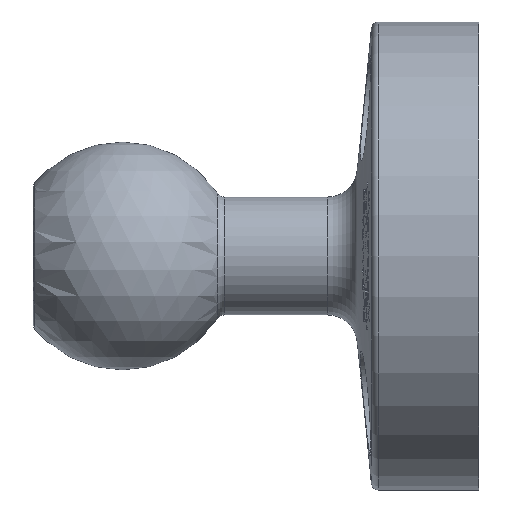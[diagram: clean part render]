
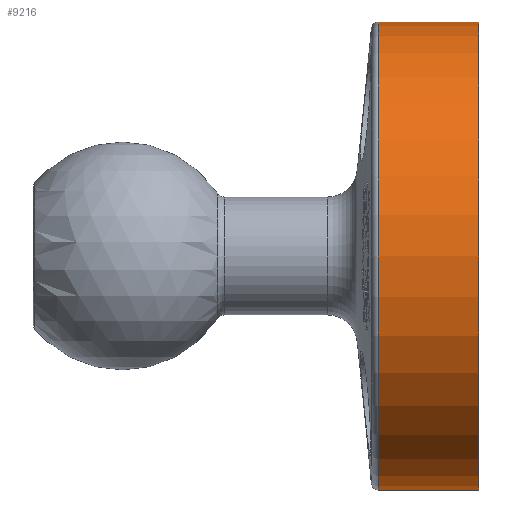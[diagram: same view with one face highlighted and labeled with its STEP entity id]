
A CAD part, front view. The second image highlights one B-rep face of the part: STEP entity #9216.
In plain terms, the highlighted cylindrical face has radius 25.019 mm (diameter 50.038 mm), a full revolution.
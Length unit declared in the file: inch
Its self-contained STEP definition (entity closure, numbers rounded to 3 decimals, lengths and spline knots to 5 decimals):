
#26=CYLINDRICAL_SURFACE('',#9716,0.985);
#99=FACE_BOUND('',#1781,.T.);
#231=CIRCLE('',#9715,0.985);
#232=CIRCLE('',#9717,0.985);
#1194=FACE_OUTER_BOUND('',#1780,.T.);
#1780=EDGE_LOOP('',(#8607));
#1781=EDGE_LOOP('',(#8608));
#4552=VERTEX_POINT('',#19945);
#4553=VERTEX_POINT('',#19948);
#5905=EDGE_CURVE('',#4552,#4552,#231,.T.);
#5906=EDGE_CURVE('',#4553,#4553,#232,.T.);
#8607=ORIENTED_EDGE('',*,*,#5906,.F.);
#8608=ORIENTED_EDGE('',*,*,#5905,.T.);
#9216=ADVANCED_FACE('',(#1194,#99),#26,.T.);
#9715=AXIS2_PLACEMENT_3D('',#19946,#11311,#11312);
#9716=AXIS2_PLACEMENT_3D('',#19947,#11313,#11314);
#9717=AXIS2_PLACEMENT_3D('',#19949,#11315,#11316);
#11311=DIRECTION('center_axis',(1.,0.,0.));
#11312=DIRECTION('ref_axis',(0.,1.,0.));
#11313=DIRECTION('center_axis',(1.,0.,0.));
#11314=DIRECTION('ref_axis',(0.,1.,0.));
#11315=DIRECTION('center_axis',(1.,0.,0.));
#11316=DIRECTION('ref_axis',(0.,1.,0.));
#19945=CARTESIAN_POINT('',(-1.02944,38.9507,0.));
#19946=CARTESIAN_POINT('Origin',(-1.02944,37.9657,0.));
#19947=CARTESIAN_POINT('Origin',(-0.81846,37.9657,0.));
#19948=CARTESIAN_POINT('',(-0.60749,38.9507,0.));
#19949=CARTESIAN_POINT('Origin',(-0.60749,37.9657,0.));
